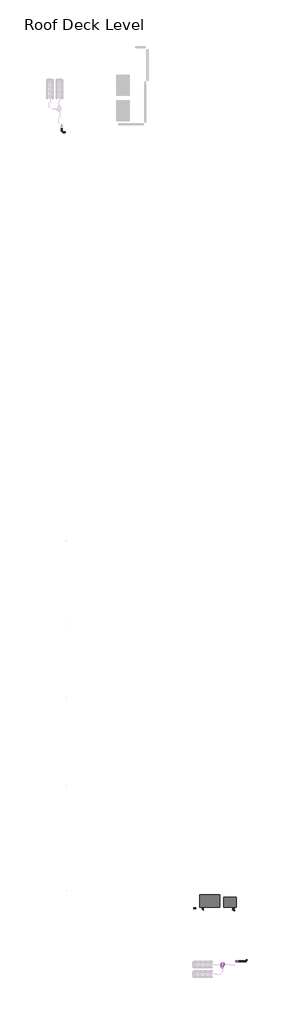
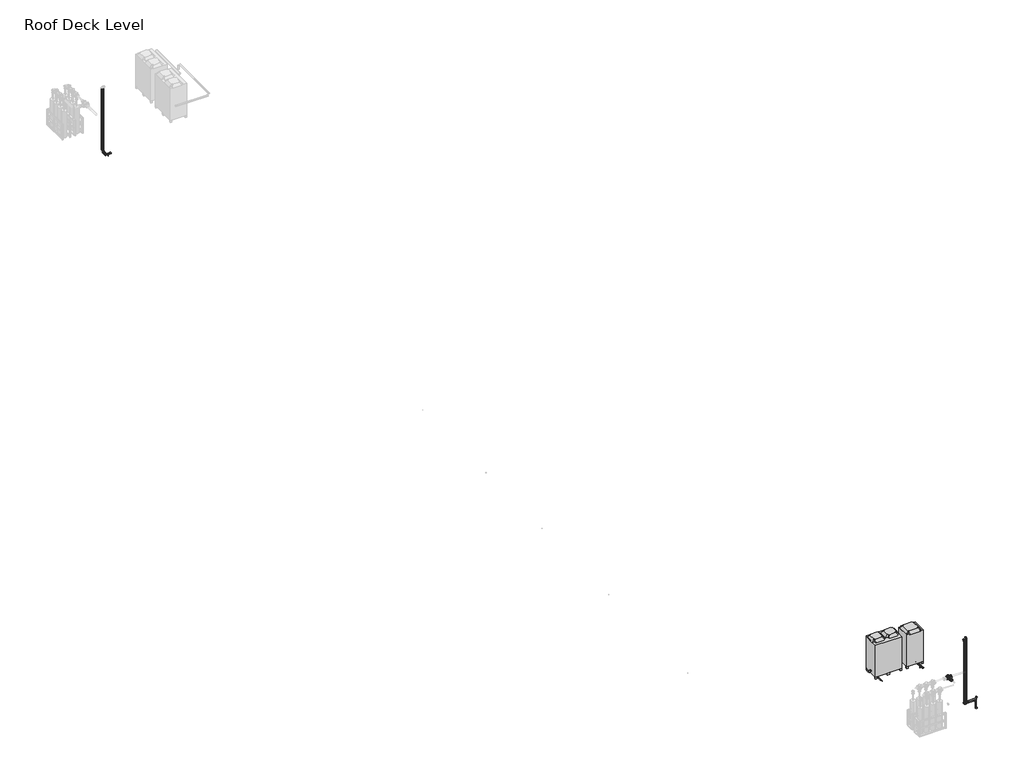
# One storey, part 2 of 3: 22 pipe fittings, 22 pipe segments, 2 proxies.
"""IFC4 building model written with IfcOpenShell, lengths in millimetres."""

from ifc_helpers import new_model, si_unit, point, frame, frame_2d, origin, place, context, project, spatial, circle_curve, trimmed, segment, composite_curve, outline, extrude, transform, mapped, element, save
from components import mechanical_equipment_0a6ad74e, mechanical_equipment_ce02502f, m_bend_pvc_sch_40_dwv_standard_cad9babd, m_elbow_generic_standard_bb5ffebe, m_elbow_generic_standard_738589b0, m_elbow_generic_standard_f0c60a04, m_reducer_flanged_cs_class_150_standard_13db1923, m_tee_generic_standard_5078887e, m_tee_generic_standard_bbfc025c, m_tee_round_base_flanged_cs_class_150_standard_dd767e04, m_transition_generic_standard_a7d161d7, m_transition_generic_standard_5f8a9689, m_transition_generic_standard_2351da66, m_transition_generic_standard_22c7c9f4, m_transition_generic_standard_e868cdd7, standard_57727813, standard_102e5625

model = new_model("IFC4")

# Units and contexts
model_context = context("Model", 3, world=origin())
ifc_project = project(units=[si_unit("LENGTHUNIT", "METRE", prefix="MILLI")], contexts=[model_context])

# Site, building, storey
site = spatial("IfcSite", under=ifc_project)
building = spatial("IfcBuilding", under=site)
storey = spatial("IfcBuildingStorey", under=building, Name="Roof Deck Level", Elevation=4400.0)

# Proxies
placement = place(None, origin())
mechanical_equipment_shape = mechanical_equipment_0a6ad74e(model_context)
element("IfcBuildingElementProxy", 1, Name="Condenser-Daikin-RXYQ5-8-10-12P : INVALID TYPE - Use Load Family and Type Catalog Instead", ObjectType="Condenser-Daikin-RXYQ5-8-10-12P : INVALID TYPE - Use Load Family and Type Catalog Instead", at=placement, inside=storey, context=model_context, shape_type="MappedRepresentation", body=[
    mapped(mechanical_equipment_shape, transform((4557.5244316, -32172.0946353, 4650.0), x_axis=(0.0, 1.0, 0.0), y_axis=(-1.0, 0.0, 0.0), z_axis=(0.0, 0.0, 1.0))),
])
mechanical_equipment_2_shape = mechanical_equipment_ce02502f(model_context)
element("IfcBuildingElementProxy", 2, Name="Condenser-Daikin-RXYQ14-16-18P : RXYQ14P, 400v/50Hz/3Ph", ObjectType="Condenser-Daikin-RXYQ14-16-18P : RXYQ14P, 400v/50Hz/3Ph", at=placement, inside=storey, context=model_context, shape_type="MappedRepresentation", body=[
    mapped(mechanical_equipment_2_shape, transform((3320.1659448, -32107.0946353, 4650.0), x_axis=(1.0, 0.0, 0.0), y_axis=(0.0, 1.0, 0.0), z_axis=(0.0, 0.0, 1.0))),
])

# Pipe fittings
m_bend_pvc_sch_40_dwv_standard_shape = m_bend_pvc_sch_40_dwv_standard_cad9babd(model_context)
element("IfcPipeFitting", 3, ObjectType="M_Bend - PVC - Sch 40 - DWV : Standard", at=placement, inside=storey, context=model_context, shape_type="MappedRepresentation", body=[
    mapped(m_bend_pvc_sch_40_dwv_standard_shape, transform((2381.9230162, -32554.2948449, 5200.0), x_axis=(-1.0, 0.0, 0.0), y_axis=(0.0, 0.0, -1.0), z_axis=(0.0, -1.0, 0.0))),
])
m_elbow_generic_standard_shape = m_elbow_generic_standard_bb5ffebe(model_context)
element("IfcPipeFitting", 4, ObjectType="M_Elbow - Generic : Standard", at=placement, inside=storey, context=model_context, shape_type="MappedRepresentation", body=[
    mapped(m_elbow_generic_standard_shape, transform((2867.2893107, -32322.8712695, 4621.4908765), x_axis=(-1.0, 0.0, 0.0), y_axis=(0.0, -1.0, 0.0), z_axis=(0.0, 0.0, 1.0))),
])
element("IfcPipeFitting", 5, ObjectType="M_Elbow - Generic : Standard", at=placement, inside=storey, context=model_context, shape_type="MappedRepresentation", body=[
    mapped(m_elbow_generic_standard_shape, transform((2911.2893107, -32322.8712695, 4621.4908765), x_axis=(0.0, 0.0, -1.0), y_axis=(-1.0, 0.0, 0.0), z_axis=(0.0, 1.0, 0.0))),
])
m_elbow_generic_standard_2_shape = m_elbow_generic_standard_738589b0(model_context)
element("IfcPipeFitting", 6, ObjectType="M_Elbow - Generic : Standard", at=placement, inside=storey, context=model_context, shape_type="MappedRepresentation", body=[
    mapped(m_elbow_generic_standard_2_shape, transform((4741.5205946, -32248.2907983, 4621.4908765), x_axis=(0.0, 0.0, -1.0), y_axis=(0.0, -1.0, 0.0), z_axis=(-1.0, 0.0, 0.0))),
])
element("IfcPipeFitting", 7, ObjectType="M_Elbow - Generic : Standard", at=placement, inside=storey, context=model_context, shape_type="MappedRepresentation", body=[
    mapped(m_elbow_generic_standard_2_shape, transform((4827.3282685, -32333.9984723, 4591.0863665), x_axis=(0.0, 0.0, -1.0), y_axis=(0.0, -1.0, 0.0), z_axis=(-1.0, 0.0, 0.0))),
])
m_elbow_generic_standard_3_shape = m_elbow_generic_standard_f0c60a04(model_context)
element("IfcPipeFitting", 8, ObjectType="M_Elbow - Generic : Standard", at=placement, inside=storey, context=model_context, shape_type="MappedRepresentation", body=[
    mapped(m_elbow_generic_standard_3_shape, transform((2911.3621079, -32360.9984723, 4591.0863665), x_axis=(0.0, 0.0, -1.0), y_axis=(0.0, -1.0, 0.0), z_axis=(-1.0, 0.0, 0.0))),
])
m_reducer_flanged_cs_class_150_standard_shape = m_reducer_flanged_cs_class_150_standard_13db1923(model_context)
element("IfcPipeFitting", 9, ObjectType="M_Reducer - Flanged - CS - Class 150 : Standard", at=placement, inside=storey, context=model_context, shape_type="MappedRepresentation", body=[
    mapped(m_reducer_flanged_cs_class_150_standard_shape, transform((4105.5817536, -36147.7985971, 6400.0), x_axis=(0.0, -1.0, 0.0), y_axis=(1.0, 0.0, 0.0), z_axis=(0.0, 0.0, 1.0))),
])
m_tee_generic_standard_shape = m_tee_generic_standard_5078887e(model_context)
element("IfcPipeFitting", 10, ObjectType="M_Tee - Generic : Standard", at=placement, inside=storey, context=model_context, shape_type="MappedRepresentation", body=[
    mapped(m_tee_generic_standard_shape, transform((4827.3282685, -32691.5527522, 4591.0863665), x_axis=(1.0, 0.0, 0.0), y_axis=(0.0, -1.0, 0.0), z_axis=(0.0, 0.0, -1.0))),
])
m_tee_generic_standard_2_shape = m_tee_generic_standard_bbfc025c(model_context)
element("IfcPipeFitting", 11, ObjectType="M_Tee - Generic : Standard", at=placement, inside=storey, context=model_context, shape_type="MappedRepresentation", body=[
    mapped(m_tee_generic_standard_2_shape, transform((4741.5205946, -32638.716218, 4621.4908765), x_axis=(-1.0, 0.0, 0.0), y_axis=(0.0, -1.0, 0.0), z_axis=(0.0, 0.0, 1.0))),
])
m_tee_round_base_flanged_cs_class_150_standard_shape = m_tee_round_base_flanged_cs_class_150_standard_dd767e04(model_context)
element("IfcPipeFitting", 12, ObjectType="M_Tee Round Base - Flanged - CS - Class 150 : Standard", at=placement, inside=storey, context=model_context, shape_type="MappedRepresentation", body=[
    mapped(m_tee_round_base_flanged_cs_class_150_standard_shape, transform((4105.5817536, -36033.7985971, 6400.0), x_axis=(-1.0, 0.0, 0.0), y_axis=(0.0, 1.0, 0.0), z_axis=(0.0, 0.0, -1.0))),
])
m_transition_generic_standard_shape = m_transition_generic_standard_a7d161d7(model_context)
element("IfcPipeFitting", 13, ObjectType="M_Transition - Generic : Standard", at=placement, inside=storey, context=model_context, shape_type="MappedRepresentation", body=[
    mapped(m_transition_generic_standard_shape, transform((4803.5157685, -32691.5527522, 4591.0863665), x_axis=(-1.0, 0.0, 0.0), y_axis=(0.0, -1.0, 0.0), z_axis=(0.0, 0.0, 1.0))),
])
m_transition_generic_standard_2_shape = m_transition_generic_standard_5f8a9689(model_context)
element("IfcPipeFitting", 14, ObjectType="M_Transition - Generic : Standard", at=placement, inside=storey, context=model_context, shape_type="MappedRepresentation", body=[
    mapped(m_transition_generic_standard_2_shape, transform((4851.1407685, -32691.5527522, 4591.0863665), x_axis=(1.0, 0.0, 0.0), y_axis=(0.0, 1.0, 0.0), z_axis=(0.0, 0.0, 1.0))),
])
m_transition_generic_standard_3_shape = m_transition_generic_standard_2351da66(model_context)
element("IfcPipeFitting", 15, ObjectType="M_Transition - Generic : Standard", at=placement, inside=storey, context=model_context, shape_type="MappedRepresentation", body=[
    mapped(m_transition_generic_standard_3_shape, transform((4741.5205946, -32613.316218, 4621.4908765), x_axis=(0.0, 1.0, 0.0), y_axis=(-1.0, 0.0, 0.0), z_axis=(0.0, 0.0, 1.0))),
])
m_transition_generic_standard_4_shape = m_transition_generic_standard_22c7c9f4(model_context)
element("IfcPipeFitting", 16, ObjectType="M_Transition - Generic : Standard", at=placement, inside=storey, context=model_context, shape_type="MappedRepresentation", body=[
    mapped(m_transition_generic_standard_4_shape, transform((4716.1205946, -32638.716218, 4621.4908765), x_axis=(-1.0, 0.0, 0.0), y_axis=(0.0, -1.0, 0.0), z_axis=(0.0, 0.0, 1.0))),
])
m_transition_generic_standard_5_shape = m_transition_generic_standard_e868cdd7(model_context)
element("IfcPipeFitting", 17, ObjectType="M_Transition - Generic : Standard", at=placement, inside=storey, context=model_context, shape_type="MappedRepresentation", body=[
    mapped(m_transition_generic_standard_5_shape, transform((2911.3621079, -32360.9984723, 4708.7502), x_axis=(0.0, 0.0, 1.0), y_axis=(0.0, 1.0, 0.0), z_axis=(-1.0, 0.0, 0.0))),
])
standard_shape = standard_57727813(model_context)
element("IfcPipeFitting", 18, ObjectType="M_Elbow - CPVC - Sch 40 : Standard", at=placement, inside=storey, context=model_context, shape_type="MappedRepresentation", body=[
    mapped(standard_shape, transform((5045.1617227, -35819.459752, 4719.8375), x_axis=(-1.0, 0.0, 0.0), y_axis=(0.0, 0.0, 1.0), z_axis=(0.0, 1.0, 0.0))),
])
element("IfcPipeFitting", 19, ObjectType="M_Elbow - CPVC - Sch 40 : Standard", at=placement, inside=storey, context=model_context, shape_type="MappedRepresentation", body=[
    mapped(standard_shape, transform((5045.1617227, -35819.459752, 7892.2), x_axis=(0.0, 0.0, 1.0), y_axis=(0.0, 1.0, 0.0), z_axis=(-1.0, 0.0, 0.0))),
])
element("IfcPipeFitting", 20, ObjectType="M_Elbow - CPVC - Sch 40 : Standard", at=placement, inside=storey, context=model_context, shape_type="MappedRepresentation", body=[
    mapped(standard_shape, transform((-5831.0029399, 15689.9865561, 4719.8375), x_axis=(0.0, 1.0, 0.0), y_axis=(0.0, 0.0, 1.0), z_axis=(1.0, 0.0, 0.0))),
])
standard_2_shape = standard_102e5625(model_context)
element("IfcPipeFitting", 21, ObjectType="M_Elbow - CPVC - Sch 40 : Standard", at=placement, inside=storey, context=model_context, shape_type="MappedRepresentation", body=[
    mapped(standard_2_shape, transform((4953.4766944, -35819.459752, 4650.0), x_axis=(-1.0, 0.0, 0.0), y_axis=(0.0, 0.0, 1.0), z_axis=(0.0, 1.0, 0.0))),
])
element("IfcPipeFitting", 22, ObjectType="M_Elbow - CPVC - Sch 40 : Standard", at=placement, inside=storey, context=model_context, shape_type="MappedRepresentation", body=[
    mapped(standard_2_shape, transform((4953.4766944, -35819.459752, 7820.0), x_axis=(0.0, 0.0, 1.0), y_axis=(0.0, 1.0, 0.0), z_axis=(-1.0, 0.0, 0.0))),
])
element("IfcPipeFitting", 23, ObjectType="M_Elbow - CPVC - Sch 40 : Standard", at=placement, inside=storey, context=model_context, shape_type="MappedRepresentation", body=[
    mapped(standard_2_shape, transform((5495.7577444, -35819.459752, 4650.0), x_axis=(1.0, 0.0, 0.0), y_axis=(0.0, 0.0, -1.0), z_axis=(0.0, 1.0, 0.0))),
])
element("IfcPipeFitting", 24, ObjectType="M_Elbow - CPVC - Sch 40 : Standard", at=placement, inside=storey, context=model_context, shape_type="MappedRepresentation", body=[
    mapped(standard_2_shape, transform((5495.7577444, -35819.459752, 4250.0), x_axis=(0.0, 0.0, -1.0), y_axis=(1.0, 0.0, 0.0), z_axis=(0.0, -1.0, 0.0))),
])

# Pipe segments
element("IfcPipeSegment", 25, ObjectType="CPVC", at=placement, inside=storey, context=model_context, shape_type="SweptSolid", body=[
    extrude(outline(composite_curve([segment(trimmed(circle_curve(frame_2d((15389.9865561, 4650.0)), 24.13), [point((15414.1165561, 4650.0))], [point((15389.9865561, 4625.87))], False, "CARTESIAN"), True, "CONTINUOUS"), segment(trimmed(circle_curve(frame_2d((15389.9865561, 4650.0)), 24.13), [point((15389.9865561, 4625.87))], [point((15365.8565561, 4650.0))], False, "CARTESIAN"), True, "CONTINUOUS"), segment(trimmed(circle_curve(frame_2d((15389.9865561, 4650.0)), 24.13), [point((15365.8565561, 4650.0))], [point((15389.9865561, 4674.13))], False, "CARTESIAN"), True, "CONTINUOUS"), segment(trimmed(circle_curve(frame_2d((15389.9865561, 4650.0)), 24.13), [point((15389.9865561, 4674.13))], [point((15414.1165561, 4650.0))], False, "CARTESIAN"), True, "CONTINUOUS")], self_intersect=False)), frame((-5768.2839899, 0.0, 0.0), z_axis=(1.0, 0.0, 0.0), x_axis=(0.0, 1.0, 0.0)), (0.0, 0.0, 1.0), 7.2590252),
])
element("IfcPipeSegment", 26, ObjectType="CPVC", at=placement, inside=storey, context=model_context, shape_type="SweptSolid", body=[
    extrude(outline(composite_curve([segment(trimmed(circle_curve(frame_2d((15389.9865561, 4719.8375)), 30.1625), [point((15420.1490561, 4719.8375))], [point((15389.9865561, 4689.675))], False, "CARTESIAN"), True, "CONTINUOUS"), segment(trimmed(circle_curve(frame_2d((15389.9865561, 4719.8375)), 30.1625), [point((15389.9865561, 4689.675))], [point((15359.8240561, 4719.8375))], False, "CARTESIAN"), True, "CONTINUOUS"), segment(trimmed(circle_curve(frame_2d((15389.9865561, 4719.8375)), 30.1625), [point((15359.8240561, 4719.8375))], [point((15389.9865561, 4750.0))], False, "CARTESIAN"), True, "CONTINUOUS"), segment(trimmed(circle_curve(frame_2d((15389.9865561, 4719.8375)), 30.1625), [point((15389.9865561, 4750.0))], [point((15420.1490561, 4719.8375))], False, "CARTESIAN"), True, "CONTINUOUS")], self_intersect=False)), frame((-5766.7091899, 0.0, 0.0), z_axis=(1.0, 0.0, 0.0), x_axis=(0.0, 1.0, 0.0)), (0.0, 0.0, 1.0), 141.7006806),
])
element("IfcPipeSegment", 27, ObjectType="CPVC", at=placement, inside=storey, context=model_context, shape_type="SweptSolid", body=[
    extrude(outline(composite_curve([segment(trimmed(circle_curve(frame_2d((4719.8375, -5831.0029399)), 30.1625), [point((4719.8375, -5800.8404399))], [point((4750.0, -5831.0029399))], False, "CARTESIAN"), True, "CONTINUOUS"), segment(trimmed(circle_curve(frame_2d((4719.8375, -5831.0029399)), 30.1625), [point((4750.0, -5831.0029399))], [point((4719.8375, -5861.1654399))], False, "CARTESIAN"), True, "CONTINUOUS"), segment(trimmed(circle_curve(frame_2d((4719.8375, -5831.0029399)), 30.1625), [point((4719.8375, -5861.1654399))], [point((4689.675, -5831.0029399))], False, "CARTESIAN"), True, "CONTINUOUS"), segment(trimmed(circle_curve(frame_2d((4719.8375, -5831.0029399)), 30.1625), [point((4689.675, -5831.0029399))], [point((4719.8375, -5800.8404399))], False, "CARTESIAN"), True, "CONTINUOUS")], self_intersect=False)), frame((0.0, 15454.2803061, 0.0), z_axis=(0.0, 1.0, 0.0), x_axis=(0.0, 0.0, 1.0)), (0.0, 0.0, 1.0), 171.4125),
])
element("IfcPipeSegment", 28, ObjectType="CPVC", at=placement, inside=storey, context=model_context, shape_type="SweptSolid", body=[
    extrude(outline(composite_curve([segment(trimmed(circle_curve(frame_2d((4650.0, -5831.0029399)), 24.13), [point((4650.0, -5806.8729399))], [point((4674.13, -5831.0029399))], False, "CARTESIAN"), True, "CONTINUOUS"), segment(trimmed(circle_curve(frame_2d((4650.0, -5831.0029399)), 24.13), [point((4674.13, -5831.0029399))], [point((4650.0, -5855.1329399))], False, "CARTESIAN"), True, "CONTINUOUS"), segment(trimmed(circle_curve(frame_2d((4650.0, -5831.0029399)), 24.13), [point((4650.0, -5855.1329399))], [point((4625.87, -5831.0029399))], False, "CARTESIAN"), True, "CONTINUOUS"), segment(trimmed(circle_curve(frame_2d((4650.0, -5831.0029399)), 24.13), [point((4625.87, -5831.0029399))], [point((4650.0, -5806.8729399))], False, "CARTESIAN"), True, "CONTINUOUS")], self_intersect=False)), frame((0.0, 15452.7055061, 0.0), z_axis=(0.0, 1.0, 0.0), x_axis=(0.0, 0.0, 1.0)), (0.0, 0.0, 1.0), 274.5621),
])
element("IfcPipeSegment", 29, ObjectType="CPVC", at=placement, inside=storey, context=model_context, shape_type="SweptSolid", body=[
    extrude(outline(composite_curve([segment(trimmed(circle_curve(frame_2d((4719.8375, 5585.1617227)), 30.1625), [point((4719.8375, 5554.9992227))], [point((4689.675, 5585.1617227))], False, "CARTESIAN"), True, "CONTINUOUS"), segment(trimmed(circle_curve(frame_2d((4719.8375, 5585.1617227)), 30.1625), [point((4689.675, 5585.1617227))], [point((4719.8375, 5615.3242227))], False, "CARTESIAN"), True, "CONTINUOUS"), segment(trimmed(circle_curve(frame_2d((4719.8375, 5585.1617227)), 30.1625), [point((4719.8375, 5615.3242227))], [point((4750.0, 5585.1617227))], False, "CARTESIAN"), True, "CONTINUOUS"), segment(trimmed(circle_curve(frame_2d((4719.8375, 5585.1617227)), 30.1625), [point((4750.0, 5585.1617227))], [point((4719.8375, 5554.9992227))], False, "CARTESIAN"), True, "CONTINUOUS")], self_intersect=False)), frame((0.0, -35755.166002, 0.0), z_axis=(0.0, 1.0, 0.0), x_axis=(0.0, 0.0, 1.0)), (0.0, 0.0, 1.0), 37.3171752),
])
element("IfcPipeSegment", 30, ObjectType="CPVC", at=placement, inside=storey, context=model_context, shape_type="SweptSolid", body=[
    extrude(outline(composite_curve([segment(trimmed(circle_curve(frame_2d((-35819.459752, 4719.8375)), 30.1625), [point((-35789.297252, 4719.8375))], [point((-35819.459752, 4689.675))], False, "CARTESIAN"), True, "CONTINUOUS"), segment(trimmed(circle_curve(frame_2d((-35819.459752, 4719.8375)), 30.1625), [point((-35819.459752, 4689.675))], [point((-35849.622252, 4719.8375))], False, "CARTESIAN"), True, "CONTINUOUS"), segment(trimmed(circle_curve(frame_2d((-35819.459752, 4719.8375)), 30.1625), [point((-35849.622252, 4719.8375))], [point((-35819.459752, 4750.0))], False, "CARTESIAN"), True, "CONTINUOUS"), segment(trimmed(circle_curve(frame_2d((-35819.459752, 4719.8375)), 30.1625), [point((-35819.459752, 4750.0))], [point((-35789.297252, 4719.8375))], False, "CARTESIAN"), True, "CONTINUOUS")], self_intersect=False)), frame((5109.4554727, 0.0, 0.0), z_axis=(1.0, 0.0, 0.0), x_axis=(0.0, 1.0, 0.0)), (0.0, 0.0, 1.0), 411.4125),
])
element("IfcPipeSegment", 31, ObjectType="CPVC", at=placement, inside=storey, context=model_context, shape_type="SweptSolid", body=[
    extrude(outline(composite_curve([segment(trimmed(circle_curve(frame_2d((-35819.459752, 4650.0)), 24.13), [point((-35795.329752, 4650.0))], [point((-35819.459752, 4625.87))], False, "CARTESIAN"), True, "CONTINUOUS"), segment(trimmed(circle_curve(frame_2d((-35819.459752, 4650.0)), 24.13), [point((-35819.459752, 4625.87))], [point((-35843.589752, 4650.0))], False, "CARTESIAN"), True, "CONTINUOUS"), segment(trimmed(circle_curve(frame_2d((-35819.459752, 4650.0)), 24.13), [point((-35843.589752, 4650.0))], [point((-35819.459752, 4674.13))], False, "CARTESIAN"), True, "CONTINUOUS"), segment(trimmed(circle_curve(frame_2d((-35819.459752, 4650.0)), 24.13), [point((-35819.459752, 4674.13))], [point((-35795.329752, 4650.0))], False, "CARTESIAN"), True, "CONTINUOUS")], self_intersect=False)), frame((5016.1956444, 0.0, 0.0), z_axis=(1.0, 0.0, 0.0), x_axis=(0.0, 1.0, 0.0)), (0.0, 0.0, 1.0), 416.84315),
])
element("IfcPipeSegment", 32, ObjectType="CPVC", at=placement, inside=storey, context=model_context, shape_type="SweptSolid", body=[
    extrude(outline(composite_curve([segment(trimmed(circle_curve(frame_2d((4953.4766944, -35819.459752)), 24.13), [point((4929.3466944, -35819.459752))], [point((4953.4766944, -35795.329752))], False, "CARTESIAN"), True, "CONTINUOUS"), segment(trimmed(circle_curve(frame_2d((4953.4766944, -35819.459752)), 24.13), [point((4953.4766944, -35795.329752))], [point((4977.6066944, -35819.459752))], False, "CARTESIAN"), True, "CONTINUOUS"), segment(trimmed(circle_curve(frame_2d((4953.4766944, -35819.459752)), 24.13), [point((4977.6066944, -35819.459752))], [point((4953.4766944, -35843.589752))], False, "CARTESIAN"), True, "CONTINUOUS"), segment(trimmed(circle_curve(frame_2d((4953.4766944, -35819.459752)), 24.13), [point((4953.4766944, -35843.589752))], [point((4929.3466944, -35819.459752))], False, "CARTESIAN"), True, "CONTINUOUS")], self_intersect=False)), frame((0.0, 0.0, 4712.71895), z_axis=(0.0, 0.0, 1.0), x_axis=(1.0, 0.0, 0.0)), (0.0, 0.0, 1.0), 3044.5621),
])
element("IfcPipeSegment", 33, ObjectType="CPVC", at=placement, inside=storey, context=model_context, shape_type="SweptSolid", body=[
    extrude(outline(composite_curve([segment(trimmed(circle_curve(frame_2d((5045.1617227, -35819.459752)), 30.1625), [point((5014.9992227, -35819.459752))], [point((5045.1617227, -35789.297252))], False, "CARTESIAN"), True, "CONTINUOUS"), segment(trimmed(circle_curve(frame_2d((5045.1617227, -35819.459752)), 30.1625), [point((5045.1617227, -35789.297252))], [point((5075.3242227, -35819.459752))], False, "CARTESIAN"), True, "CONTINUOUS"), segment(trimmed(circle_curve(frame_2d((5045.1617227, -35819.459752)), 30.1625), [point((5075.3242227, -35819.459752))], [point((5045.1617227, -35849.622252))], False, "CARTESIAN"), True, "CONTINUOUS"), segment(trimmed(circle_curve(frame_2d((5045.1617227, -35819.459752)), 30.1625), [point((5045.1617227, -35849.622252))], [point((5014.9992227, -35819.459752))], False, "CARTESIAN"), True, "CONTINUOUS")], self_intersect=False)), frame((0.0, 0.0, 4784.13125), z_axis=(0.0, 0.0, 1.0), x_axis=(1.0, 0.0, 0.0)), (0.0, 0.0, 1.0), 3043.775),
])
element("IfcPipeSegment", 34, ObjectType="CPVC", at=placement, inside=storey, context=model_context, shape_type="SweptSolid", body=[
    extrude(outline(composite_curve([segment(trimmed(circle_curve(frame_2d((-5831.0029399, 15689.9865561)), 30.1625), [point((-5861.1654399, 15689.9865561))], [point((-5831.0029399, 15720.1490561))], False, "CARTESIAN"), True, "CONTINUOUS"), segment(trimmed(circle_curve(frame_2d((-5831.0029399, 15689.9865561)), 30.1625), [point((-5831.0029399, 15720.1490561))], [point((-5800.8404399, 15689.9865561))], False, "CARTESIAN"), True, "CONTINUOUS"), segment(trimmed(circle_curve(frame_2d((-5831.0029399, 15689.9865561)), 30.1625), [point((-5800.8404399, 15689.9865561))], [point((-5831.0029399, 15659.8240561))], False, "CARTESIAN"), True, "CONTINUOUS"), segment(trimmed(circle_curve(frame_2d((-5831.0029399, 15689.9865561)), 30.1625), [point((-5831.0029399, 15659.8240561))], [point((-5861.1654399, 15689.9865561))], False, "CARTESIAN"), True, "CONTINUOUS")], self_intersect=False)), frame((0.0, 0.0, 4784.13125), z_axis=(0.0, 0.0, 1.0), x_axis=(1.0, 0.0, 0.0)), (0.0, 0.0, 1.0), 3043.775),
])
element("IfcPipeSegment", 35, ObjectType="CPVC", at=placement, inside=storey, context=model_context, shape_type="SweptSolid", body=[
    extrude(outline(composite_curve([segment(trimmed(circle_curve(frame_2d((-5831.0029399, 15789.9865561)), 24.13), [point((-5855.1329399, 15789.9865561))], [point((-5831.0029399, 15814.1165561))], False, "CARTESIAN"), True, "CONTINUOUS"), segment(trimmed(circle_curve(frame_2d((-5831.0029399, 15789.9865561)), 24.13), [point((-5831.0029399, 15814.1165561))], [point((-5806.8729399, 15789.9865561))], False, "CARTESIAN"), True, "CONTINUOUS"), segment(trimmed(circle_curve(frame_2d((-5831.0029399, 15789.9865561)), 24.13), [point((-5806.8729399, 15789.9865561))], [point((-5831.0029399, 15765.8565561))], False, "CARTESIAN"), True, "CONTINUOUS"), segment(trimmed(circle_curve(frame_2d((-5831.0029399, 15789.9865561)), 24.13), [point((-5831.0029399, 15765.8565561))], [point((-5855.1329399, 15789.9865561))], False, "CARTESIAN"), True, "CONTINUOUS")], self_intersect=False)), frame((0.0, 0.0, 4712.71895), z_axis=(0.0, 0.0, 1.0), x_axis=(1.0, 0.0, 0.0)), (0.0, 0.0, 1.0), 3044.5621),
])
element("IfcPipeSegment", 36, ObjectType="CPVC", at=placement, inside=storey, context=model_context, shape_type="SweptSolid", body=[
    extrude(outline(composite_curve([segment(trimmed(circle_curve(frame_2d((5495.7577444, -35819.459752)), 24.13), [point((5519.8877444, -35819.459752))], [point((5495.7577444, -35843.589752))], False, "CARTESIAN"), True, "CONTINUOUS"), segment(trimmed(circle_curve(frame_2d((5495.7577444, -35819.459752)), 24.13), [point((5495.7577444, -35843.589752))], [point((5471.6277444, -35819.459752))], False, "CARTESIAN"), True, "CONTINUOUS"), segment(trimmed(circle_curve(frame_2d((5495.7577444, -35819.459752)), 24.13), [point((5471.6277444, -35819.459752))], [point((5495.7577444, -35795.329752))], False, "CARTESIAN"), True, "CONTINUOUS"), segment(trimmed(circle_curve(frame_2d((5495.7577444, -35819.459752)), 24.13), [point((5495.7577444, -35795.329752))], [point((5519.8877444, -35819.459752))], False, "CARTESIAN"), True, "CONTINUOUS")], self_intersect=False)), frame((0.0, 0.0, 4312.71895), z_axis=(0.0, 0.0, 1.0), x_axis=(1.0, 0.0, 0.0)), (0.0, 0.0, 1.0), 274.5621),
])
element("IfcPipeSegment", 37, ObjectType="Copper", at=placement, inside=storey, context=model_context, shape_type="SweptSolid", body=[
    extrude(outline(composite_curve([segment(trimmed(circle_curve(frame_2d((4741.5205946, -32248.2907983)), 9.75), [point((4751.2705946, -32248.2907983))], [point((4741.5205946, -32258.0407983))], False, "CARTESIAN"), True, "CONTINUOUS"), segment(trimmed(circle_curve(frame_2d((4741.5205946, -32248.2907983)), 9.75), [point((4741.5205946, -32258.0407983))], [point((4731.7705946, -32248.2907983))], False, "CARTESIAN"), True, "CONTINUOUS"), segment(trimmed(circle_curve(frame_2d((4741.5205946, -32248.2907983)), 9.75), [point((4731.7705946, -32248.2907983))], [point((4741.5205946, -32238.5407983))], False, "CARTESIAN"), True, "CONTINUOUS"), segment(trimmed(circle_curve(frame_2d((4741.5205946, -32248.2907983)), 9.75), [point((4741.5205946, -32238.5407983))], [point((4751.2705946, -32248.2907983))], False, "CARTESIAN"), True, "CONTINUOUS")], self_intersect=False)), frame((0.0, 0.0, 4638.9533765), z_axis=(0.0, 0.0, 1.0), x_axis=(1.0, 0.0, 0.0)), (0.0, 0.0, 1.0), 72.9718235),
])
element("IfcPipeSegment", 38, ObjectType="Copper", at=placement, inside=storey, context=model_context, shape_type="SweptSolid", body=[
    extrude(outline(composite_curve([segment(trimmed(circle_curve(frame_2d((4621.4908765, 4741.5205946)), 9.75), [point((4621.4908765, 4731.7705946))], [point((4611.7408765, 4741.5205946))], False, "CARTESIAN"), True, "CONTINUOUS"), segment(trimmed(circle_curve(frame_2d((4621.4908765, 4741.5205946)), 9.75), [point((4611.7408765, 4741.5205946))], [point((4621.4908765, 4751.2705946))], False, "CARTESIAN"), True, "CONTINUOUS"), segment(trimmed(circle_curve(frame_2d((4621.4908765, 4741.5205946)), 9.75), [point((4621.4908765, 4751.2705946))], [point((4631.2408765, 4741.5205946))], False, "CARTESIAN"), True, "CONTINUOUS"), segment(trimmed(circle_curve(frame_2d((4621.4908765, 4741.5205946)), 9.75), [point((4631.2408765, 4741.5205946))], [point((4621.4908765, 4731.7705946))], False, "CARTESIAN"), True, "CONTINUOUS")], self_intersect=False)), frame((0.0, -32606.966218, 0.0), z_axis=(0.0, 1.0, 0.0), x_axis=(0.0, 0.0, 1.0)), (0.0, 0.0, 1.0), 341.2129197),
])
element("IfcPipeSegment", 39, ObjectType="Copper", at=placement, inside=storey, context=model_context, shape_type="SweptSolid", body=[
    extrude(outline(composite_curve([segment(trimmed(circle_curve(frame_2d((4827.3282685, -32333.9984723)), 9.75), [point((4837.0782685, -32333.9984723))], [point((4827.3282685, -32343.7484723))], False, "CARTESIAN"), True, "CONTINUOUS"), segment(trimmed(circle_curve(frame_2d((4827.3282685, -32333.9984723)), 9.75), [point((4827.3282685, -32343.7484723))], [point((4817.5782685, -32333.9984723))], False, "CARTESIAN"), True, "CONTINUOUS"), segment(trimmed(circle_curve(frame_2d((4827.3282685, -32333.9984723)), 9.75), [point((4817.5782685, -32333.9984723))], [point((4827.3282685, -32324.2484723))], False, "CARTESIAN"), True, "CONTINUOUS"), segment(trimmed(circle_curve(frame_2d((4827.3282685, -32333.9984723)), 9.75), [point((4827.3282685, -32324.2484723))], [point((4837.0782685, -32333.9984723))], False, "CARTESIAN"), True, "CONTINUOUS")], self_intersect=False)), frame((0.0, 0.0, 4608.5488665), z_axis=(0.0, 0.0, 1.0), x_axis=(1.0, 0.0, 0.0)), (0.0, 0.0, 1.0), 103.3763335),
])
element("IfcPipeSegment", 40, ObjectType="Copper", at=placement, inside=storey, context=model_context, shape_type="SweptSolid", body=[
    extrude(outline(composite_curve([segment(trimmed(circle_curve(frame_2d((4591.0863665, 4827.3282685)), 9.75), [point((4591.0863665, 4817.5782685))], [point((4581.3363665, 4827.3282685))], False, "CARTESIAN"), True, "CONTINUOUS"), segment(trimmed(circle_curve(frame_2d((4591.0863665, 4827.3282685)), 9.75), [point((4581.3363665, 4827.3282685))], [point((4591.0863665, 4837.0782685))], False, "CARTESIAN"), True, "CONTINUOUS"), segment(trimmed(circle_curve(frame_2d((4591.0863665, 4827.3282685)), 9.75), [point((4591.0863665, 4837.0782685))], [point((4600.8363665, 4827.3282685))], False, "CARTESIAN"), True, "CONTINUOUS"), segment(trimmed(circle_curve(frame_2d((4591.0863665, 4827.3282685)), 9.75), [point((4600.8363665, 4827.3282685))], [point((4591.0863665, 4817.5782685))], False, "CARTESIAN"), True, "CONTINUOUS")], self_intersect=False)), frame((0.0, -32667.7402522, 0.0), z_axis=(0.0, 1.0, 0.0), x_axis=(0.0, 0.0, 1.0)), (0.0, 0.0, 1.0), 316.27928),
])
element("IfcPipeSegment", 41, ObjectType="Copper", at=placement, inside=storey, context=model_context, shape_type="SweptSolid", body=[
    extrude(outline(composite_curve([segment(trimmed(circle_curve(frame_2d((2911.2893107, -32322.8712695)), 8.1), [point((2919.3893107, -32322.8712695))], [point((2911.2893107, -32330.9712695))], False, "CARTESIAN"), True, "CONTINUOUS"), segment(trimmed(circle_curve(frame_2d((2911.2893107, -32322.8712695)), 8.1), [point((2911.2893107, -32330.9712695))], [point((2903.1893107, -32322.8712695))], False, "CARTESIAN"), True, "CONTINUOUS"), segment(trimmed(circle_curve(frame_2d((2911.2893107, -32322.8712695)), 8.1), [point((2903.1893107, -32322.8712695))], [point((2911.2893107, -32314.7712695))], False, "CARTESIAN"), True, "CONTINUOUS"), segment(trimmed(circle_curve(frame_2d((2911.2893107, -32322.8712695)), 8.1), [point((2911.2893107, -32314.7712695))], [point((2919.3893107, -32322.8712695))], False, "CARTESIAN"), True, "CONTINUOUS")], self_intersect=False)), frame((0.0, 0.0, 4637.3658765), z_axis=(0.0, 0.0, 1.0), x_axis=(1.0, 0.0, 0.0)), (0.0, 0.0, 1.0), 74.5593235),
])
element("IfcPipeSegment", 42, ObjectType="Copper", at=placement, inside=storey, context=model_context, shape_type="SweptSolid", body=[
    extrude(outline(composite_curve([segment(trimmed(circle_curve(frame_2d((4621.4908765, 2867.2893107)), 8.1), [point((4621.4908765, 2859.1893107))], [point((4613.3908765, 2867.2893107))], False, "CARTESIAN"), True, "CONTINUOUS"), segment(trimmed(circle_curve(frame_2d((4621.4908765, 2867.2893107)), 8.1), [point((4613.3908765, 2867.2893107))], [point((4621.4908765, 2875.3893107))], False, "CARTESIAN"), True, "CONTINUOUS"), segment(trimmed(circle_curve(frame_2d((4621.4908765, 2867.2893107)), 8.1), [point((4621.4908765, 2875.3893107))], [point((4629.5908765, 2867.2893107))], False, "CARTESIAN"), True, "CONTINUOUS"), segment(trimmed(circle_curve(frame_2d((4621.4908765, 2867.2893107)), 8.1), [point((4629.5908765, 2867.2893107))], [point((4621.4908765, 2859.1893107))], False, "CARTESIAN"), True, "CONTINUOUS")], self_intersect=False)), frame((0.0, -32622.841218, 0.0), z_axis=(0.0, 1.0, 0.0), x_axis=(0.0, 0.0, 1.0)), (0.0, 0.0, 1.0), 284.0949485),
])
element("IfcPipeSegment", 43, ObjectType="Copper", at=placement, inside=storey, context=model_context, shape_type="SweptSolid", body=[
    extrude(outline(composite_curve([segment(trimmed(circle_curve(frame_2d((2911.3621079, -32360.9984723)), 4.9), [point((2916.2621079, -32360.9984723))], [point((2911.3621079, -32365.8984723))], False, "CARTESIAN"), True, "CONTINUOUS"), segment(trimmed(circle_curve(frame_2d((2911.3621079, -32360.9984723)), 4.9), [point((2911.3621079, -32365.8984723))], [point((2906.4621079, -32360.9984723))], False, "CARTESIAN"), True, "CONTINUOUS"), segment(trimmed(circle_curve(frame_2d((2911.3621079, -32360.9984723)), 4.9), [point((2906.4621079, -32360.9984723))], [point((2911.3621079, -32356.0984723))], False, "CARTESIAN"), True, "CONTINUOUS"), segment(trimmed(circle_curve(frame_2d((2911.3621079, -32360.9984723)), 4.9), [point((2911.3621079, -32356.0984723))], [point((2916.2621079, -32360.9984723))], False, "CARTESIAN"), True, "CONTINUOUS")], self_intersect=False)), frame((0.0, 0.0, 4603.7738665), z_axis=(0.0, 0.0, 1.0), x_axis=(1.0, 0.0, 0.0)), (0.0, 0.0, 1.0), 104.9763335),
])
element("IfcPipeSegment", 44, ObjectType="Copper", at=placement, inside=storey, context=model_context, shape_type="SweptSolid", body=[
    extrude(outline(composite_curve([segment(trimmed(circle_curve(frame_2d((4591.0863665, 2911.3621079)), 4.9), [point((4591.0863665, 2906.4621079))], [point((4586.1863665, 2911.3621079))], False, "CARTESIAN"), True, "CONTINUOUS"), segment(trimmed(circle_curve(frame_2d((4591.0863665, 2911.3621079)), 4.9), [point((4586.1863665, 2911.3621079))], [point((4591.0863665, 2916.2621079))], False, "CARTESIAN"), True, "CONTINUOUS"), segment(trimmed(circle_curve(frame_2d((4591.0863665, 2911.3621079)), 4.9), [point((4591.0863665, 2916.2621079))], [point((4595.9863665, 2911.3621079))], False, "CARTESIAN"), True, "CONTINUOUS"), segment(trimmed(circle_curve(frame_2d((4591.0863665, 2911.3621079)), 4.9), [point((4595.9863665, 2911.3621079))], [point((4591.0863665, 2906.4621079))], False, "CARTESIAN"), True, "CONTINUOUS")], self_intersect=False)), frame((0.0, -32678.8652522, 0.0), z_axis=(0.0, 1.0, 0.0), x_axis=(0.0, 0.0, 1.0)), (0.0, 0.0, 1.0), 305.17928),
])
element("IfcPipeSegment", 45, ObjectType="Copper", at=placement, inside=storey, context=model_context, shape_type="SweptSolid", body=[
    extrude(outline(composite_curve([segment(trimmed(circle_curve(frame_2d((-32322.8712695, 4621.4908765)), 8.1), [point((-32330.9712695, 4621.4908765))], [point((-32322.8712695, 4629.5908765))], False, "CARTESIAN"), True, "CONTINUOUS"), segment(trimmed(circle_curve(frame_2d((-32322.8712695, 4621.4908765)), 8.1), [point((-32322.8712695, 4629.5908765))], [point((-32314.7712695, 4621.4908765))], False, "CARTESIAN"), True, "CONTINUOUS"), segment(trimmed(circle_curve(frame_2d((-32322.8712695, 4621.4908765)), 8.1), [point((-32314.7712695, 4621.4908765))], [point((-32322.8712695, 4613.3908765))], False, "CARTESIAN"), True, "CONTINUOUS"), segment(trimmed(circle_curve(frame_2d((-32322.8712695, 4621.4908765)), 8.1), [point((-32322.8712695, 4613.3908765))], [point((-32330.9712695, 4621.4908765))], False, "CARTESIAN"), True, "CONTINUOUS")], self_intersect=False)), frame((2883.1643107, 0.0, 0.0), z_axis=(1.0, 0.0, 0.0), x_axis=(0.0, 1.0, 0.0)), (0.0, 0.0, 1.0), 12.25),
])
element("IfcPipeSegment", 46, ObjectType="PVC - DWV", at=placement, inside=storey, context=model_context, shape_type="SweptSolid", body=[
    extrude(outline(composite_curve([segment(trimmed(circle_curve(frame_2d((-32554.2948449, 5200.0)), 30.1625), [point((-32524.1323449, 5200.0))], [point((-32554.2948449, 5169.8375))], False, "CARTESIAN"), True, "CONTINUOUS"), segment(trimmed(circle_curve(frame_2d((-32554.2948449, 5200.0)), 30.1625), [point((-32554.2948449, 5169.8375))], [point((-32584.4573449, 5200.0))], False, "CARTESIAN"), True, "CONTINUOUS"), segment(trimmed(circle_curve(frame_2d((-32554.2948449, 5200.0)), 30.1625), [point((-32584.4573449, 5200.0))], [point((-32554.2948449, 5230.1625))], False, "CARTESIAN"), True, "CONTINUOUS"), segment(trimmed(circle_curve(frame_2d((-32554.2948449, 5200.0)), 30.1625), [point((-32554.2948449, 5230.1625))], [point((-32524.1323449, 5200.0))], False, "CARTESIAN"), True, "CONTINUOUS")], self_intersect=False)), frame((2439.0730162, 0.0, 0.0), z_axis=(1.0, 0.0, 0.0), x_axis=(0.0, 1.0, 0.0)), (0.0, 0.0, 1.0), 7.7670588),
])

save(model, "model.ifc")
